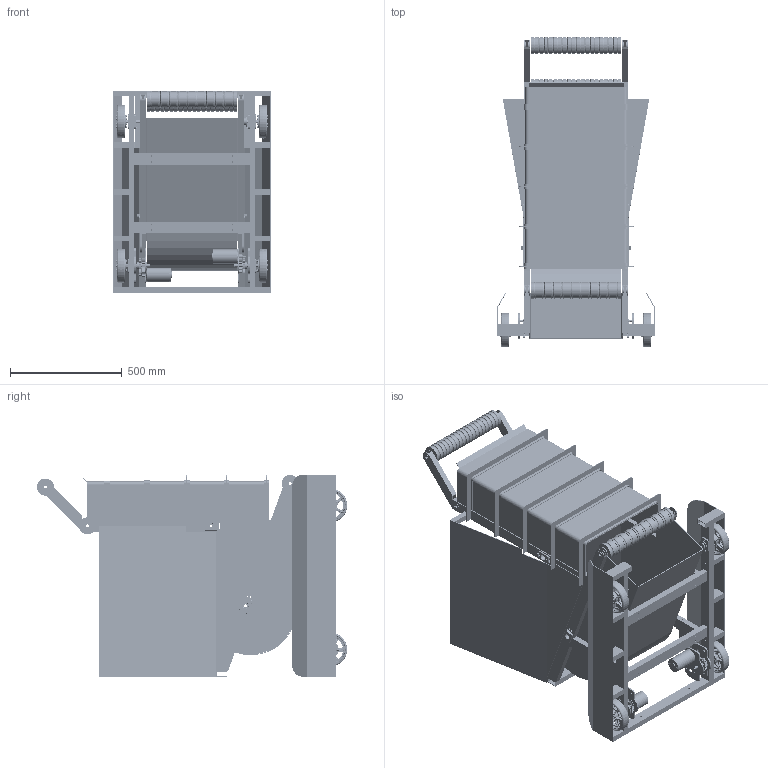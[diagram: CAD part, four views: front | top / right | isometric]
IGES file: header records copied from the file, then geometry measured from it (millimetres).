
Start section: SolidWorks IGES file using analytic representation for surfaces
Global section: file name: E:\FIRST\2009\Robot\Daisy May Robot Assembly.IGS; native system: SolidWorks 2007; preprocessor: SolidWorks 2007; author: Jon Jack; date: 091010.163600; units: inch
Bounding box: 704.85 x 1385.56 x 905.5 mm (x, y, z)
Surface area: 11263357.9 mm2 (no closed solid volume)
Topology: 0 solids, 0 shells, 24060 faces, 299725 edges, 299553 vertices
Faces by surface type: revolution 13156, bspline 10904
